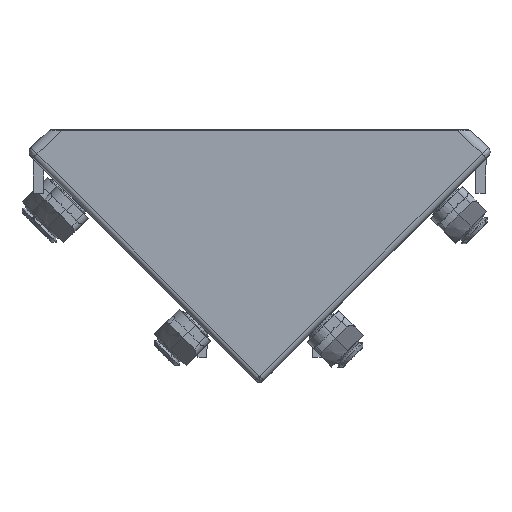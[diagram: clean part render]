
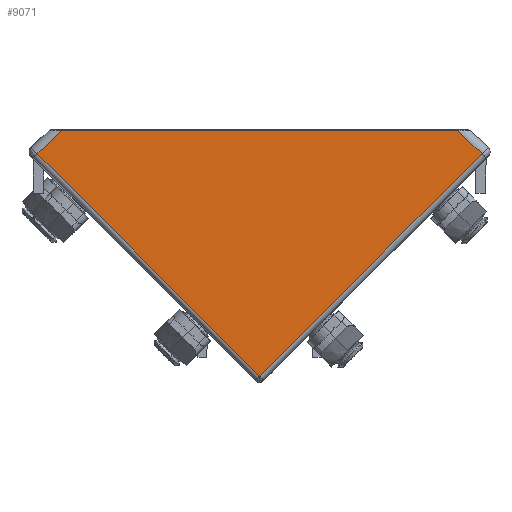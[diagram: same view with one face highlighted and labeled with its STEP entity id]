
A CAD part, top view. The second image highlights one B-rep face of the part: STEP entity #9071.
In plain terms, the highlighted planar face has unit normal (0, -0.007, 1).
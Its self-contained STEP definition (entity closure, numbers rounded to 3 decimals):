
#404 = CARTESIAN_POINT ( 'NONE',  ( -38.545, 39.16, 29.006 ) ) ;
#758 = CARTESIAN_POINT ( 'NONE',  ( -20.573, 43.27, 29.035 ) ) ;
#786 = DIRECTION ( 'NONE',  ( 0., 1., 0.007 ) ) ;
#800 = VERTEX_POINT ( 'NONE', #6114 ) ;
#899 = CARTESIAN_POINT ( 'NONE',  ( -34.289, 43.27, 29.035 ) ) ;
#904 = CARTESIAN_POINT ( 'NONE',  ( -55.197, -8.54, 28.673 ) ) ;
#1141 = B_SPLINE_CURVE_WITH_KNOTS ( 'NONE', 3,
 ( #2380, #7983, #5155, #9807, #5973, #12014, #10066, #6154, #6101, #6033, #7924, #1193, #6215 ),
 .UNSPECIFIED., .F., .F.,
 ( 4, 3, 3, 3, 4 ),
 ( 0., 0.037, 0.184, 0.771, 1. ),
 .UNSPECIFIED. ) ;
#1193 = CARTESIAN_POINT ( 'NONE',  ( 2.938, 3.63, 28.758 ) ) ;
#1452 = VERTEX_POINT ( 'NONE', #8523 ) ;
#1579 = CARTESIAN_POINT ( 'NONE',  ( 6.858, 43.27, 29.035 ) ) ;
#1599 = CARTESIAN_POINT ( 'NONE',  ( 37.775, 39.903, 29.011 ) ) ;
#1726 = CARTESIAN_POINT ( 'NONE',  ( 36.237, 41.389, 29.022 ) ) ;
#1870 = CARTESIAN_POINT ( 'NONE',  ( -35.606, 36.228, 28.985 ) ) ;
#1988 = CARTESIAN_POINT ( 'NONE',  ( 34.289, 43.27, 29.035 ) ) ;
#2333 = ORIENTED_EDGE ( 'NONE', *, *, #7510, .F. ) ;
#2380 = CARTESIAN_POINT ( 'NONE',  ( 38.545, 39.16, 29.006 ) ) ;
#2625 = CARTESIAN_POINT ( 'NONE',  ( -29.73, 30.365, 28.945 ) ) ;
#3168 = B_SPLINE_CURVE_WITH_KNOTS ( 'NONE', 3,
 ( #3489, #11395, #3604, #1726, #6370, #1599, #5439 ),
 .UNSPECIFIED., .F., .F.,
 ( 4, 3, 4 ),
 ( 0., 0.458, 1. ),
 .UNSPECIFIED. ) ;
#3489 = CARTESIAN_POINT ( 'NONE',  ( 34.289, 43.27, 29.035 ) ) ;
#3604 = CARTESIAN_POINT ( 'NONE',  ( 35.587, 42.016, 29.026 ) ) ;
#3872 = AXIS2_PLACEMENT_3D ( 'NONE', #904, #7568, #786 ) ;
#4357 = ORIENTED_EDGE ( 'NONE', *, *, #5864, .F. ) ;
#4412 = B_SPLINE_CURVE_WITH_KNOTS ( 'NONE', 3,
 ( #5807, #11532, #4799, #7622, #9571, #5693, #899 ),
 .UNSPECIFIED., .F., .F.,
 ( 4, 3, 4 ),
 ( 0., 0.339, 1. ),
 .UNSPECIFIED. ) ;
#4517 = CARTESIAN_POINT ( 'NONE',  ( -0.944, 1.64, 28.744 ) ) ;
#4534 = CARTESIAN_POINT ( 'NONE',  ( -6.858, 43.27, 29.035 ) ) ;
#4576 = CARTESIAN_POINT ( 'NONE',  ( -0.472, 1.169, 28.741 ) ) ;
#4799 = CARTESIAN_POINT ( 'NONE',  ( -37.583, 40.088, 29.012 ) ) ;
#4953 = EDGE_CURVE ( 'NONE', #12219, #8101, #4412, .T. ) ;
#5135 = ORIENTED_EDGE ( 'NONE', *, *, #6842, .F. ) ;
#5155 = CARTESIAN_POINT ( 'NONE',  ( 37.601, 38.218, 28.999 ) ) ;
#5439 = CARTESIAN_POINT ( 'NONE',  ( 38.545, 39.16, 29.006 ) ) ;
#5549 = CARTESIAN_POINT ( 'NONE',  ( 34.289, 43.27, 29.035 ) ) ;
#5693 = CARTESIAN_POINT ( 'NONE',  ( -35.227, 42.364, 29.028 ) ) ;
#5697 = PLANE ( 'NONE',  #3872 ) ;
#5807 = CARTESIAN_POINT ( 'NONE',  ( -38.545, 39.16, 29.006 ) ) ;
#5864 = EDGE_CURVE ( 'NONE', #800, #12219, #6631, .T. ) ;
#5973 = CARTESIAN_POINT ( 'NONE',  ( 35.241, 35.864, 28.983 ) ) ;
#6033 = CARTESIAN_POINT ( 'NONE',  ( 8.815, 9.494, 28.799 ) ) ;
#6039 = VERTEX_POINT ( 'NONE', #1988 ) ;
#6101 = CARTESIAN_POINT ( 'NONE',  ( 16.365, 17.028, 28.851 ) ) ;
#6114 = CARTESIAN_POINT ( 'NONE',  ( 0., 0.698, 28.737 ) ) ;
#6154 = CARTESIAN_POINT ( 'NONE',  ( 23.916, 24.562, 28.904 ) ) ;
#6215 = CARTESIAN_POINT ( 'NONE',  ( 0., 0.698, 28.737 ) ) ;
#6370 = CARTESIAN_POINT ( 'NONE',  ( 37.006, 40.646, 29.016 ) ) ;
#6395 = CARTESIAN_POINT ( 'NONE',  ( 0., 0.698, 28.737 ) ) ;
#6463 = CARTESIAN_POINT ( 'NONE',  ( -38.545, 39.16, 29.006 ) ) ;
#6542 = CARTESIAN_POINT ( 'NONE',  ( 20.573, 43.27, 29.035 ) ) ;
#6631 = B_SPLINE_CURVE_WITH_KNOTS ( 'NONE', 3,
 ( #6395, #4576, #4517, #9411, #10487, #8404, #12437, #8351, #12258, #2625, #10367, #1870, #6463 ),
 .UNSPECIFIED., .F., .F.,
 ( 4, 3, 3, 3, 4 ),
 ( 0., 0.037, 0.184, 0.771, 1. ),
 .UNSPECIFIED. ) ;
#6842 = EDGE_CURVE ( 'NONE', #6039, #1452, #3168, .T. ) ;
#7401 = B_SPLINE_CURVE_WITH_KNOTS ( 'NONE', 5,
 ( #5549, #6542, #1579, #4534, #758, #9370 ),
 .UNSPECIFIED., .F., .F.,
 ( 6, 6 ),
 ( 0., 1. ),
 .UNSPECIFIED. ) ;
#7510 = EDGE_CURVE ( 'NONE', #1452, #800, #1141, .T. ) ;
#7568 = DIRECTION ( 'NONE',  ( 0., 0.007, -1. ) ) ;
#7622 = CARTESIAN_POINT ( 'NONE',  ( -37.103, 40.553, 29.016 ) ) ;
#7924 = CARTESIAN_POINT ( 'NONE',  ( 5.876, 6.562, 28.778 ) ) ;
#7983 = CARTESIAN_POINT ( 'NONE',  ( 38.073, 38.689, 29.003 ) ) ;
#8101 = VERTEX_POINT ( 'NONE', #9393 ) ;
#8351 = CARTESIAN_POINT ( 'NONE',  ( -14.629, 15.296, 28.839 ) ) ;
#8404 = CARTESIAN_POINT ( 'NONE',  ( -5.191, 5.878, 28.774 ) ) ;
#8523 = CARTESIAN_POINT ( 'NONE',  ( 38.545, 39.16, 29.006 ) ) ;
#8570 = FACE_OUTER_BOUND ( 'NONE', #9528, .T. ) ;
#9071 = ADVANCED_FACE ( 'NONE', ( #8570 ), #5697, .F. ) ;
#9175 = ORIENTED_EDGE ( 'NONE', *, *, #4953, .F. ) ;
#9370 = CARTESIAN_POINT ( 'NONE',  ( -34.289, 43.27, 29.035 ) ) ;
#9393 = CARTESIAN_POINT ( 'NONE',  ( -34.289, 43.27, 29.035 ) ) ;
#9411 = CARTESIAN_POINT ( 'NONE',  ( -1.416, 2.111, 28.747 ) ) ;
#9528 = EDGE_LOOP ( 'NONE', ( #2333, #5135, #11921, #9175, #4357 ) ) ;
#9571 = CARTESIAN_POINT ( 'NONE',  ( -36.165, 41.458, 29.022 ) ) ;
#9807 = CARTESIAN_POINT ( 'NONE',  ( 37.129, 37.747, 28.996 ) ) ;
#9940 = EDGE_CURVE ( 'NONE', #6039, #8101, #7401, .T. ) ;
#10066 = CARTESIAN_POINT ( 'NONE',  ( 31.466, 32.097, 28.957 ) ) ;
#10367 = CARTESIAN_POINT ( 'NONE',  ( -32.668, 33.296, 28.965 ) ) ;
#10487 = CARTESIAN_POINT ( 'NONE',  ( -3.303, 3.995, 28.76 ) ) ;
#11395 = CARTESIAN_POINT ( 'NONE',  ( 34.938, 42.643, 29.03 ) ) ;
#11532 = CARTESIAN_POINT ( 'NONE',  ( -38.064, 39.624, 29.009 ) ) ;
#11921 = ORIENTED_EDGE ( 'NONE', *, *, #9940, .T. ) ;
#12014 = CARTESIAN_POINT ( 'NONE',  ( 33.354, 33.98, 28.97 ) ) ;
#12219 = VERTEX_POINT ( 'NONE', #404 ) ;
#12258 = CARTESIAN_POINT ( 'NONE',  ( -22.18, 22.83, 28.892 ) ) ;
#12437 = CARTESIAN_POINT ( 'NONE',  ( -7.079, 7.762, 28.787 ) ) ;
